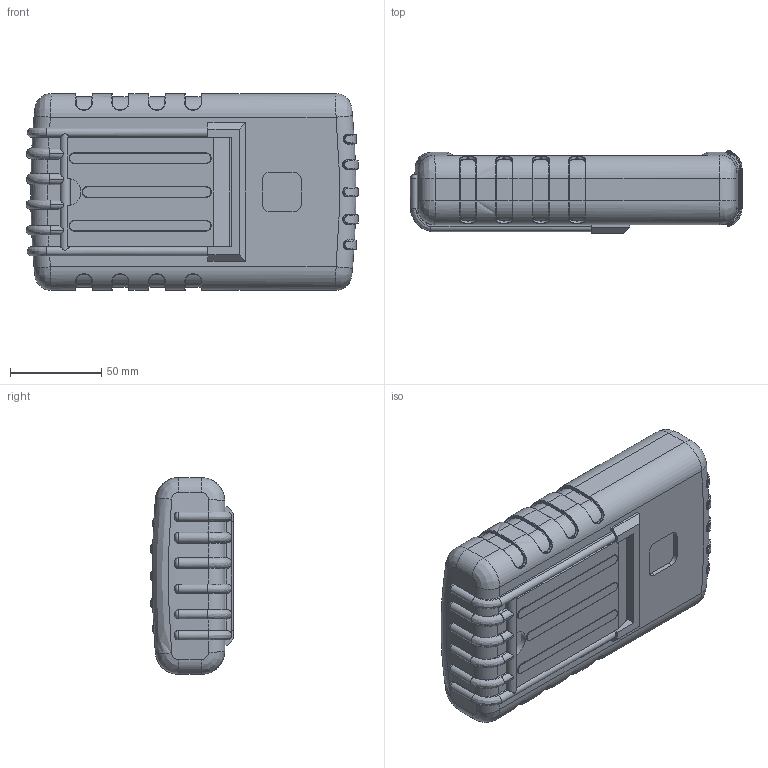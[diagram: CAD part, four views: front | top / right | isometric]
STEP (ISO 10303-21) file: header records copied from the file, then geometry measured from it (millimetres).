
FILE_DESCRIPTION (( 'STEP AP214' ), '1' );
FILE_NAME ('90-43-3A-R-BO.STEP', '2020-10-05T00:56:25', ( 'Rudy' ), ( '' ), 'SwSTEP 2.0', 'SolidWorks 2014', '' );
FILE_SCHEMA (( 'AUTOMOTIVE_DESIGN' ));
Length unit declared in the file: millimetre
Products named in the file (8): 90-43-3A-R-BO; 90 RBT; RT 90 stand; 90 PCB 3AA; 3AAdoor; 90-Top Recess; 90-3AA
Assembly tree (7 placements, depth 3):
  90-43-3A-R-BO
    90-3AA
    90-Top Recess
    3AAdoor
    90 PCB 3AA
    90 RBT
      90 RBT
      RT 90 stand
Bounding box: 182.05 x 45.61 x 108 mm (x, y, z)
Volume: 359241.5 mm3; surface area: 206906.4 mm2
Topology: 6 solids, 6 shells, 1425 faces, 3712 edges, 2311 vertices
Faces by surface type: plane 650, cylinder 411, bspline 180, torus 120, cone 46, sphere 18
Entity records: 55642 total; most frequent: CARTESIAN_POINT 21510, ORIENTED_EDGE 7388, DIRECTION 6754, EDGE_CURVE 3694, AXIS2_PLACEMENT_3D 2329, VERTEX_POINT 2303, LINE 2096, VECTOR 2096
